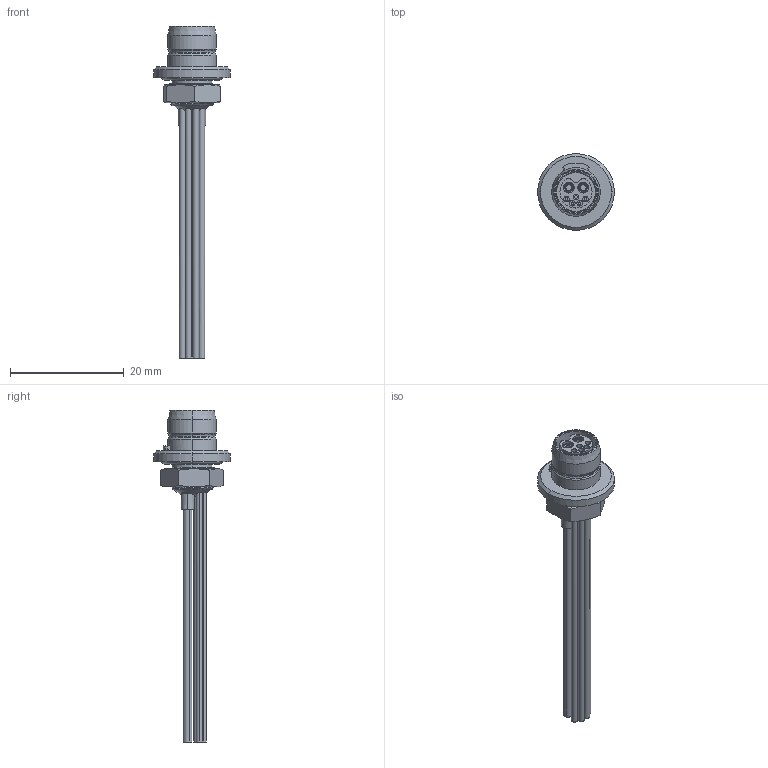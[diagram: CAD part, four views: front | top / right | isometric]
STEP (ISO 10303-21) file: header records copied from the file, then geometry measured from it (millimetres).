
FILE_DESCRIPTION (( 'STEP AP214' ), '1' );
FILE_NAME ('A90139-001 REV A.STEP', '2021-03-03T22:52:32', ( '' ), ( '' ), 'SwSTEP 2.0', 'SolidWorks 2019', '' );
FILE_SCHEMA (( 'AUTOMOTIVE_DESIGN' ));
Length unit declared in the file: inch
Products named in the file (1): A90139-001 REV A
Bounding box: 13.46 x 13.46 x 58.27 mm (x, y, z)
Volume: 1218.5 mm3; surface area: 2779 mm2
Topology: 1 solids, 2 shells, 241 faces, 595 edges, 383 vertices
Faces by surface type: cylinder 96, plane 60, cone 42, bspline 24, torus 17, sphere 2
Entity records: 18494 total; most frequent: CARTESIAN_POINT 9907, ORIENTED_EDGE 1190, DIRECTION 1049, EDGE_CURVE 595, AXIS2_PLACEMENT_3D 446, VERTEX_POINT 383, EDGE_LOOP 280, LENGTH_MEASURE_WITH_UNIT 244
